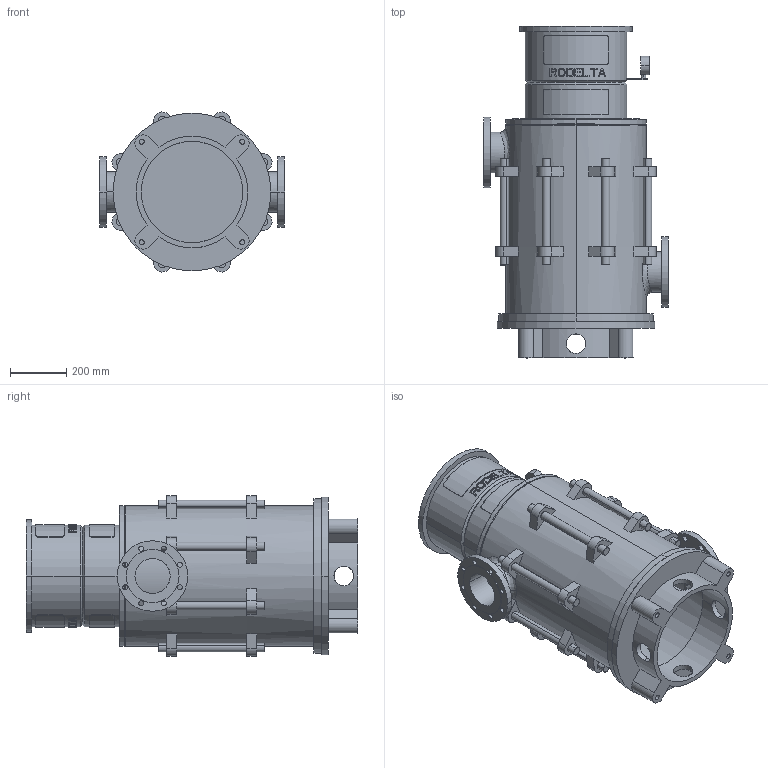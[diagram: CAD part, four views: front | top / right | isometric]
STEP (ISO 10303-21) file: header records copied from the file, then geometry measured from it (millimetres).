
FILE_DESCRIPTION((''),'2;1');
FILE_NAME('LS5_3TR_0GR_TOT_30KW','2023-08-08T',('Lyritlocal'),(''),'PRO/ENGINEER BY PARAMETRIC TECHNOLOGY CORPORATION, 2016360','PRO/ENGINEER BY PARAMETRIC TECHNOLOGY CORPORATION, 2016360','');
FILE_SCHEMA(('CONFIG_CONTROL_DESIGN'));
Length unit declared in the file: millimetre
Products named in the file (1): LS5_3TR_0GR_TOT_30KW
Bounding box: 660 x 1178 x 568.08 mm (x, y, z)
Volume: 34910379.7 mm3; surface area: 4909521.8 mm2
Topology: 3 solids, 7 shells, 672 faces, 1747 edges, 1158 vertices
Faces by surface type: plane 414, cylinder 242, cone 12, bspline 4
Entity records: 21978 total; most frequent: CARTESIAN_POINT 5534, ORIENTED_EDGE 3478, DIRECTION 3269, EDGE_CURVE 1747, AXIS2_PLACEMENT_3D 1241, VERTEX_POINT 1158, EDGE_LOOP 809, VECTOR 787
